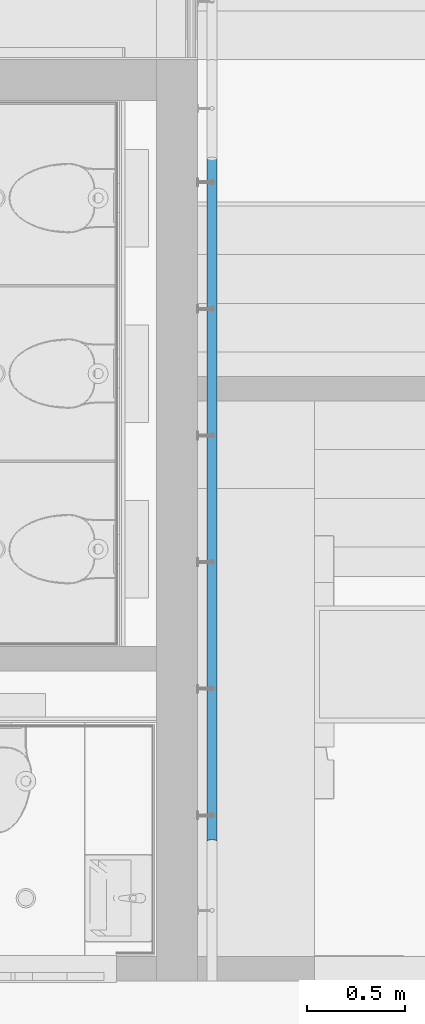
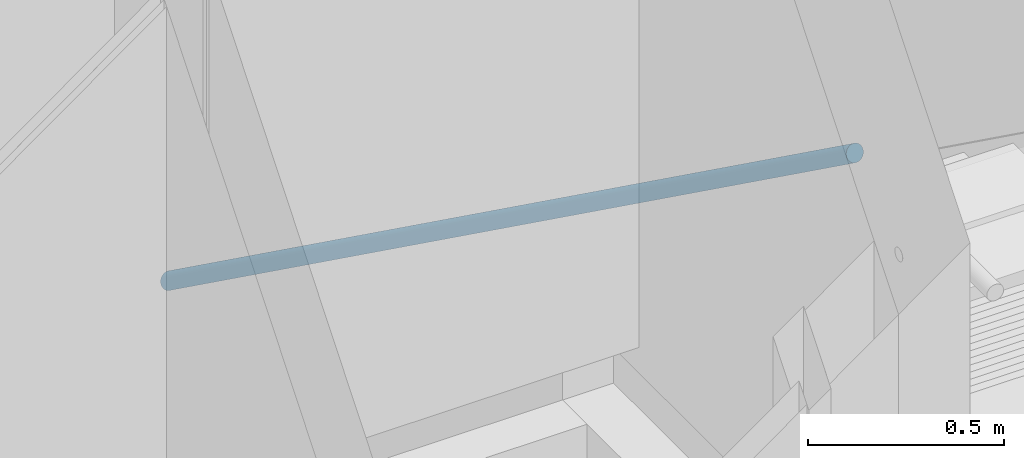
# One storey, part 119 of 347: 1 building element part, 2 elements without a shape of their own.
"""IFC2X3 building model written with IfcOpenShell, lengths in millimetres."""

import ifcopenshell
import ifcopenshell.guid

model = None  # the IFC model being written
_history = None  # IfcOwnerHistory: only IFC2X3 demands one
_inside = {}  # id of a spatial element -> (the spatial element, [elements in it])
_under = {}  # id of a project, library or spatial element -> (it, [spatial elements below it])
_declared = {}  # id of a project -> (the project, [libraries it declares])
_typed = {}  # id of a type object -> (the type object, [elements of that type])
_made_of = {}  # id of a material, layer set ... -> (it, [elements and type objects made of it])


def new_model(schema):
    """Start an empty IFC model of exactly this schema.

    Asked for "IFC4X3", IfcOpenShell would pick the latest addendum, in which some entities
    have other attributes; the version numbers below select the first issue.
    IFC2X3 requires an IfcOwnerHistory on every rooted entity: one is made here for all.
    """
    global model, _history
    if schema == "IFC4X3":
        model = ifcopenshell.file(schema_version=(4, 3, 0, 0))
    else:
        model = ifcopenshell.file(schema=schema)
    _inside.clear()
    _under.clear()
    _declared.clear()
    _typed.clear()
    _made_of.clear()
    _history = None
    if model.schema == "IFC2X3":
        org = make("IfcOrganization", Name="unknown")
        user = make(
            "IfcPersonAndOrganization",
            ThePerson=make("IfcPerson", FamilyName="unknown"),
            TheOrganization=org,
        )
        app = make(
            "IfcApplication",
            ApplicationDeveloper=org,
            Version="unknown",
            ApplicationFullName="unknown",
            ApplicationIdentifier="unknown",
        )
        _history = make(
            "IfcOwnerHistory",
            OwningUser=user,
            OwningApplication=app,
            ChangeAction="ADDED",
            CreationDate=0,
        )
    return model


def make(cls, **values):
    """One entity of the class cls with the attributes given. An attribute that is None is left unset."""
    return model.create_entity(
        cls, **{name: value for name, value in values.items() if value is not None}
    )


def entity(cls, *values):
    """Any entity or typed value of the class cls, its attributes in the order of the schema. None: left unset."""
    e = model.create_entity(cls)
    for i, value in enumerate(values):
        if value is not None:
            e[i] = value
    return e


def rooted(cls, **values):
    """An entity with a GlobalId (a new one), such as an element, a storey or a relation."""
    return make(cls, GlobalId=ifcopenshell.guid.new(), OwnerHistory=_history, **values)


def si_unit(unit_type, name, prefix=None):
    """IfcSIUnit, for example si_unit("LENGTHUNIT", "METRE", prefix="MILLI")."""
    return make("IfcSIUnit", UnitType=unit_type, Prefix=prefix, Name=name)


def converted_unit(unit_type, name, factor, base, dimensions=None, offset=None):
    """IfcConversionBasedUnit, such as the inch: factor (a typed value) times the base unit."""
    return make(
        "IfcConversionBasedUnit"
        if offset is None
        else "IfcConversionBasedUnitWithOffset",
        ConversionOffset=offset,
        Dimensions=None
        if dimensions is None
        else entity("IfcDimensionalExponents", *dimensions),
        UnitType=unit_type,
        Name=name,
        ConversionFactor=make(
            "IfcMeasureWithUnit", ValueComponent=factor, UnitComponent=base
        ),
    )


def derived_unit(unit_type, elements):
    """IfcDerivedUnit: a product of units, each with its exponent."""
    return make(
        "IfcDerivedUnit",
        Elements=[
            make("IfcDerivedUnitElement", Unit=unit, Exponent=power)
            for unit, power in elements
        ],
        UnitType=unit_type,
    )


def money_unit(currency):
    """IfcMonetaryUnit."""
    return make("IfcMonetaryUnit", Currency=currency)


def assignment(units):
    """IfcUnitAssignment: the units of a project."""
    return None if units is None else make("IfcUnitAssignment", Units=units)


def point(xyz):
    """IfcCartesianPoint."""
    return None if xyz is None else make("IfcCartesianPoint", Coordinates=xyz)


def direction(xyz):
    """IfcDirection."""
    return None if xyz is None else make("IfcDirection", DirectionRatios=xyz)


def frame(location, z_axis=None, x_axis=None):
    """IfcAxis2Placement3D, a coordinate frame: its origin and axes. An axis left out is left unset."""
    return make(
        "IfcAxis2Placement3D",
        Location=point(location),
        Axis=direction(z_axis),
        RefDirection=direction(x_axis),
    )


def origin_with_axes():
    """The frame at (0, 0, 0) with the z axis (0, 0, 1) and the x axis (1, 0, 0) written out."""
    return frame((0.0, 0.0, 0.0), z_axis=(0.0, 0.0, 1.0), x_axis=(1.0, 0.0, 0.0))


def place(relative_to, where):
    """IfcLocalPlacement: puts the frame where relative to a parent placement (None: the world)."""
    return make(
        "IfcLocalPlacement", PlacementRelTo=relative_to, RelativePlacement=where
    )


def context(
    kind, dimensions, precision=None, world=None, true_north=None, identifier=None
):
    """IfcGeometricRepresentationContext, for example the 3D "Model" context."""
    return make(
        "IfcGeometricRepresentationContext",
        ContextIdentifier=identifier,
        ContextType=kind,
        CoordinateSpaceDimension=dimensions,
        Precision=precision,
        WorldCoordinateSystem=world,
        TrueNorth=true_north,
    )


def subcontext(parent, identifier, kind, view, scale=None):
    """IfcGeometricRepresentationSubContext, for example "Body" below "Model"."""
    return make(
        "IfcGeometricRepresentationSubContext",
        ContextIdentifier=identifier,
        ContextType=kind,
        ParentContext=parent,
        TargetScale=scale,
        TargetView=view,
    )


def project(units=None, contexts=None):
    """IfcProject with its units and contexts."""
    return rooted(
        "IfcProject",
        Name="project",
        RepresentationContexts=contexts,
        UnitsInContext=assignment(units),
    )


def spatial(cls, under=None, at=None, **own):
    """A site, building, storey or space (cls), placed at a placement, below another one or the project."""
    s = rooted(cls, ObjectPlacement=at, **own)
    if under is not None:
        _under.setdefault(under.id(), (under, []))[1].append(s)
    return s


def faces_of(points, faces, orient=None, outer=None):
    """IfcFace entities. A face is a list of loops; a loop is a list of indices into points, from 0.

    orient and outer hold one flag for each loop. By default every Orientation is true, the
    first loop of a face is its IfcFaceOuterBound and the others are IfcFaceBound.
    """
    made = []
    for i, loops in enumerate(faces):
        bounds = []
        for j, loop in enumerate(loops):
            is_outer = j == 0 if outer is None else outer[i][j]
            bounds.append(
                make(
                    "IfcFaceOuterBound" if is_outer else "IfcFaceBound",
                    Bound=make("IfcPolyLoop", Polygon=[points[k] for k in loop]),
                    Orientation=True if orient is None else orient[i][j],
                )
            )
        made.append(make("IfcFace", Bounds=bounds))
    return made


def faceted_brep(points, faces, orient=None, outer=None, voids=None):
    """IfcFacetedBrep: a solid bounded by flat faces; with voids (closed shells), ...WithVoids."""
    shared = [point(p) for p in points]
    hull = make("IfcClosedShell", CfsFaces=faces_of(shared, faces, orient, outer))
    if voids is None:
        return make("IfcFacetedBrep", Outer=hull)
    return make(
        "IfcFacetedBrepWithVoids",
        Outer=hull,
        Voids=[
            make(cls, CfsFaces=faces_of(shared, fs, o, b)) for cls, fs, o, b in voids
        ],
    )


def shape(context_of_items, identifier, shape_type, items):
    """IfcShapeRepresentation: the items that make up one representation, for example the "Body"."""
    return make(
        "IfcShapeRepresentation",
        ContextOfItems=context_of_items,
        RepresentationIdentifier=identifier,
        RepresentationType=shape_type,
        Items=items,
    )


def material(Name=None, Category=None):
    """IfcMaterial."""
    return make("IfcMaterial", Name=Name, Category=Category)


def made_of(thing, what):
    """Note that an element or type object is made of a material, layer set ...; save() writes the relation."""
    if what is not None:
        _made_of.setdefault(what.id(), (what, []))[1].append(thing)
    return thing


def type_object(cls, material=None, **own):
    """A type object (cls), such as IfcWallType, which elements share."""
    return made_of(rooted(cls, **own), material)


def element(
    cls,
    number,
    at=None,
    inside=None,
    cuts=None,
    type_object=None,
    material=None,
    context=None,
    identifier="Body",
    shape_type=None,
    held_by="IfcProductDefinitionShape",
    body=None,
    shapes=None,
    **own,
):
    """One element of the class cls, such as IfcWall. Its Tag is "e" and its number.

    at: its placement. inside: the storey or other place that contains it. cuts: it is an
    opening in that element (IfcRelVoidsElement). A single representation is given by context,
    identifier, shape_type and body (its items); several are given by shapes. held_by: the class
    of the entity that holds the representations. save() writes the other relations.
    """
    e = rooted(cls, Tag="e%d" % number, ObjectPlacement=at, **own)
    if body is not None:
        shapes = [shape(context, identifier, shape_type, body)]
    if shapes is not None:
        e.Representation = make(held_by, Representations=shapes)
    if inside is not None:
        _inside.setdefault(inside.id(), (inside, []))[1].append(e)
    if cuts is not None:
        rooted(
            "IfcRelVoidsElement", RelatingBuildingElement=cuts, RelatedOpeningElement=e
        )
    if type_object is not None:
        _typed.setdefault(type_object.id(), (type_object, []))[1].append(e)
    return made_of(e, material)


def aggregate(whole, parts):
    """IfcRelAggregates: a whole, such as a stair, and the parts it consists of."""
    return rooted("IfcRelAggregates", RelatingObject=whole, RelatedObjects=parts)


def save(model, path):
    """Write the relations noted so far, then the file.

    IfcRelAggregates (storeys below a building ...), IfcRelContainedInSpatialStructure (elements
    in a storey), IfcRelDefinesByType, IfcRelAssociatesMaterial and IfcRelDeclares: one each for
    every whole, place, type object, material and project.
    """
    for whole, parts in _under.values():
        aggregate(whole, parts)
    for where, things in _inside.values():
        rooted(
            "IfcRelContainedInSpatialStructure",
            RelatedElements=things,
            RelatingStructure=where,
        )
    for kind, things in _typed.values():
        rooted("IfcRelDefinesByType", RelatedObjects=things, RelatingType=kind)
    for what, things in _made_of.values():
        rooted("IfcRelAssociatesMaterial", RelatedObjects=things, RelatingMaterial=what)
    for by, libraries in _declared.values():
        rooted("IfcRelDeclares", RelatingContext=by, RelatedDefinitions=libraries)
    model.write(path)


model = new_model("IFC2X3")

# Units and contexts
model_context = context("Model", 3, precision=0.01, world=origin_with_axes(), true_north=direction((0.0, 1.0)))
plan_context = context("Plan", 3, precision=0.01, world=origin_with_axes(), true_north=direction((0.0, 1.0)))
body_context = subcontext(model_context, "Body", "Model", "MODEL_VIEW")
ifc_project = project(units=[si_unit("LENGTHUNIT", "METRE", prefix="MILLI"), si_unit("AREAUNIT", "SQUARE_METRE"), si_unit("VOLUMEUNIT", "CUBIC_METRE"), converted_unit("PLANEANGLEUNIT", "DEGREE", entity("IfcPlaneAngleMeasure", 0.0174532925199), si_unit("PLANEANGLEUNIT", "RADIAN"), dimensions=[0, 0, 0, 0, 0, 0, 0]), money_unit("EUR"), converted_unit("TIMEUNIT", "Year", entity("IfcTimeMeasure", 31556926.0), si_unit("TIMEUNIT", "SECOND"), dimensions=[0, 0, 1, 0, 0, 0, 0]), si_unit("MASSUNIT", "GRAM", prefix="KILO"), si_unit("THERMODYNAMICTEMPERATUREUNIT", "DEGREE_CELSIUS"), si_unit("LUMINOUSINTENSITYUNIT", "LUMEN"), si_unit("ENERGYUNIT", "JOULE", prefix="MEGA"), derived_unit("THERMALCONDUCTANCEUNIT", [(si_unit("POWERUNIT", "WATT"), 1), (si_unit("LENGTHUNIT", "METRE"), -1), (si_unit("THERMODYNAMICTEMPERATUREUNIT", "KELVIN"), -1)]), derived_unit("SPECIFICHEATCAPACITYUNIT", [(si_unit("ENERGYUNIT", "JOULE"), 1), (si_unit("MASSUNIT", "GRAM", prefix="KILO"), -1), (si_unit("THERMODYNAMICTEMPERATUREUNIT", "KELVIN"), -1)]), derived_unit("MASSDENSITYUNIT", [(si_unit("MASSUNIT", "GRAM", prefix="KILO"), 1), (si_unit("VOLUMEUNIT", "CUBIC_METRE"), -1)])], contexts=[model_context, plan_context])

# Site, building, storey
site_placement = place(None, origin_with_axes())
site = spatial("IfcSite", under=ifc_project, at=site_placement, Name="Site", CompositionType="ELEMENT")
building_placement = place(site_placement, origin_with_axes())
building = spatial("IfcBuilding", under=site, at=building_placement, Name="Naam gebouw", CompositionType="ELEMENT")
storey_placement = place(building_placement, origin_with_axes())
storey = spatial("IfcBuildingStorey", under=building, at=storey_placement, Name="begane grond", CompositionType="ELEMENT", Elevation=0.0)

# Railing, member, building element part
railing_type = type_object("IfcRailingType", Name="Railing Type", PredefinedType="NOTDEFINED")
railing_placement = place(storey_placement, frame((38575.0, 36499.9999823, 72.0000018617), z_axis=(0.0, 0.0, 1.0), x_axis=(-1.0, 0.0, 0.0)))
railing = element("IfcRailing", 1, at=railing_placement, inside=storey, type_object=railing_type, Name="_Reling-x", PredefinedType="NOTDEFINED")
member_type = type_object("IfcMemberType", Name="IfcMember", PredefinedType="USERDEFINED")
member_placement = place(railing_placement, frame((-75.0, 3949.99999297, 2212.0982987), z_axis=(0.0, 0.0, 1.0), x_axis=(-1.0, 0.0, 0.0)))
member = element("IfcMember", 2, at=member_placement, type_object=member_type, Name="_Handregel-x")
aggregate(railing, [member])
ifc_material = material(Name="Hout AFW")
building_element_part_placement = place(member_placement, origin_with_axes())
building_element_part = element("IfcBuildingElementPart", 3, at=building_element_part_placement, material=ifc_material, Name="Hout AFW", context=body_context, shape_type="Brep", body=[
    faceted_brep([(25.0, 1741.93631759, 30.9016994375), (24.6201938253, 1743.33655949, 35.2429038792), (24.6201938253, -1756.66341911, 2555.24290388), (25.0, -1758.06366101, 2550.90169944), (24.6201938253, 1740.53607569, 26.5604949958), (23.4923155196, 1739.17837944, 22.3511958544), (21.6506350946, 1737.90448174, 18.4016994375), (19.151111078, 1736.75308933, 14.8320091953), (16.0696902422, 1735.75918669, 11.7505883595), (12.5, 1734.95297304, 9.25106434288), (8.55050358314, 1734.35894479, 7.40938391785), (4.34120444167, 1733.99515117, 6.28150561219), (0.0, 1733.87264588, 5.90169943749), (-4.34120444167, 1733.99515117, 6.28150561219), (-8.55050358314, 1734.35894479, 7.40938391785), (-12.5, 1734.95297304, 9.25106434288), (-16.0696902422, 1735.75918669, 11.7505883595), (-19.151111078, 1736.75308933, 14.8320091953), (-21.6506350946, 1737.90448174, 18.4016994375), (-23.4923155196, 1739.17837944, 22.3511958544), (-24.6201938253, 1740.53607569, 26.5604949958), (-25.0, 1741.93631759, 30.9016994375), (-24.6201938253, 1743.33655949, 35.2429038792), (-23.4923155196, 1744.69425574, 39.4522030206), (-21.6506350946, 1745.96815345, 43.4016994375), (-19.151111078, 1747.11954585, 46.9713896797), (-16.0696902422, 1748.11344849, 50.0528105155), (-12.5, 1748.91966214, 52.5523345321), (-8.55050358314, 1749.51369039, 54.3940149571), (-4.34120444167, 1749.87748401, 55.5218932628), (0.0, 1749.9999893, 55.9016994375), (4.34120444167, 1749.87748401, 55.5218932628), (8.55050358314, 1749.51369039, 54.3940149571), (12.5, 1748.91966214, 52.5523345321), (16.0696902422, 1748.11344849, 50.0528105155), (19.151111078, 1747.11954585, 46.9713896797), (21.6506350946, 1745.96815345, 43.4016994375), (23.4923155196, 1744.69425574, 39.4522030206), (23.4923155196, -1755.30572285, 2559.45220302), (21.6506350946, -1754.03182515, 2563.40169944), (19.151111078, -1752.88043275, 2566.97138968), (16.0696902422, -1751.8865301, 2570.05281052), (12.5, -1751.08031646, 2572.55233453), (8.55050358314, -1750.48628821, 2574.39401496), (4.34120444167, -1750.12249459, 2575.52189326), (0.0, -1749.9999893, 2575.90169944), (-4.34120444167, -1750.12249459, 2575.52189326), (-8.55050358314, -1750.48628821, 2574.39401496), (-12.5, -1751.08031646, 2572.55233453), (-16.0696902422, -1751.8865301, 2570.05281052), (-19.151111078, -1752.88043275, 2566.97138968), (-21.6506350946, -1754.03182515, 2563.40169944), (-23.4923155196, -1755.30572285, 2559.45220302), (-24.6201938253, -1756.66341911, 2555.24290388), (-25.0, -1758.06366101, 2550.90169944), (-24.6201938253, -1759.46390291, 2546.560495), (-23.4923155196, -1760.82159916, 2542.35119585), (-21.6506350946, -1762.09549686, 2538.40169944), (-19.151111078, -1763.24688927, 2534.8320092), (-16.0696902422, -1764.24079191, 2531.75058836), (-12.5, -1765.04700556, 2529.25106434), (-8.55050358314, -1765.64103381, 2527.40938392), (-4.34120444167, -1766.00482742, 2526.28150561), (0.0, -1766.12733272, 2525.90169944), (4.34120444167, -1766.00482742, 2526.28150561), (8.55050358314, -1765.64103381, 2527.40938392), (12.5, -1765.04700556, 2529.25106434), (16.0696902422, -1764.24079191, 2531.75058836), (19.151111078, -1763.24688927, 2534.8320092), (21.6506350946, -1762.09549686, 2538.40169944), (23.4923155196, -1760.82159916, 2542.35119585), (24.6201938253, -1759.46390291, 2546.560495)], [[[0, 1, 2, 3]], [[0, 4, 5, 6, 7, 8, 9, 10, 11, 12, 13, 14, 15, 16, 17, 18, 19, 20, 21, 22, 23, 24, 25, 26, 27, 28, 29, 30, 31, 32, 33, 34, 35, 36, 37, 1]], [[1, 37, 38, 2]], [[3, 2, 38, 39, 40, 41, 42, 43, 44, 45, 46, 47, 48, 49, 50, 51, 52, 53, 54, 55, 56, 57, 58, 59, 60, 61, 62, 63, 64, 65, 66, 67, 68, 69, 70, 71]], [[4, 0, 3, 71]], [[5, 4, 71, 70]], [[6, 5, 70, 69]], [[7, 6, 69, 68]], [[8, 7, 68, 67]], [[9, 8, 67, 66]], [[10, 9, 66, 65]], [[11, 10, 65, 64]], [[12, 11, 64, 63]], [[13, 12, 63, 62]], [[14, 13, 62, 61]], [[15, 14, 61, 60]], [[16, 15, 60, 59]], [[17, 16, 59, 58]], [[18, 17, 58, 57]], [[19, 18, 57, 56]], [[20, 19, 56, 55]], [[21, 20, 55, 54]], [[22, 21, 54, 53]], [[23, 22, 53, 52]], [[24, 23, 52, 51]], [[25, 24, 51, 50]], [[26, 25, 50, 49]], [[27, 26, 49, 48]], [[28, 27, 48, 47]], [[29, 28, 47, 46]], [[30, 29, 46, 45]], [[31, 30, 45, 44]], [[32, 31, 44, 43]], [[33, 32, 43, 42]], [[34, 33, 42, 41]], [[35, 34, 41, 40]], [[36, 35, 40, 39]], [[37, 36, 39, 38]]]),
])
aggregate(member, [building_element_part])

save(model, "model.ifc")
